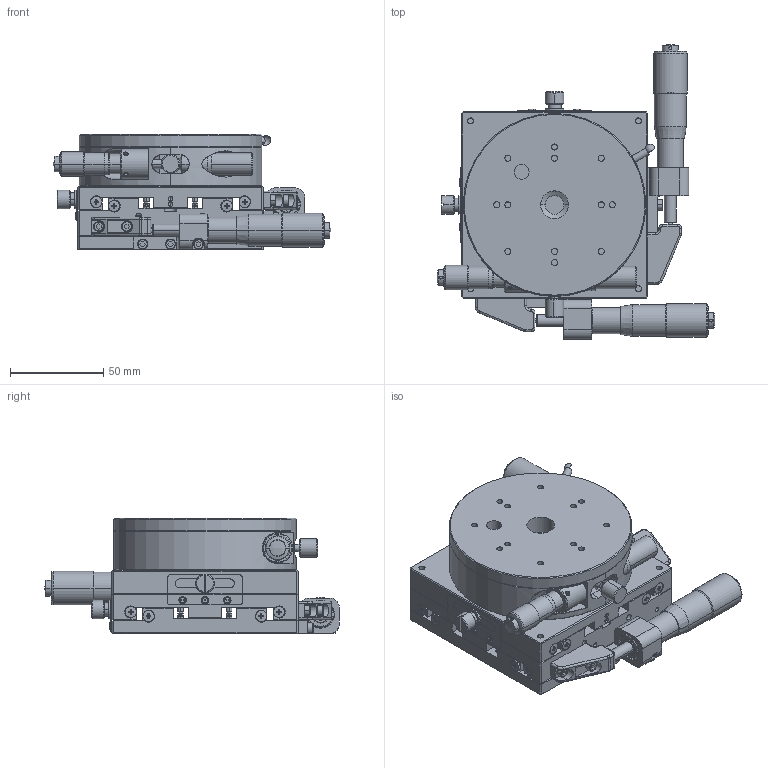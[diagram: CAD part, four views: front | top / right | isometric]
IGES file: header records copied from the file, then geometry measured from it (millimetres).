
Global section: file name: No Iges File Name specified; native system: AutoDesk Inventor R12.0; preprocessor: AutoDesk Inventor Iges Exporter R12.0; author: No Author specified; organization: No Organization specified; date: 20090924.130843; units: millimetre
Bounding box: 148.75 x 157.87 x 62 mm (x, y, z)
Volume: 539587.5 mm3; surface area: 169205.2 mm2
Topology: 6 solids, 87 shells, 2656 faces, 6413 edges, 4084 vertices
Faces by surface type: plane 948, bspline 651, cylinder 492, revolution 278, cone 232, sphere 29, torus 26
Full cylindrical faces by diameter (mm): 98 x1
